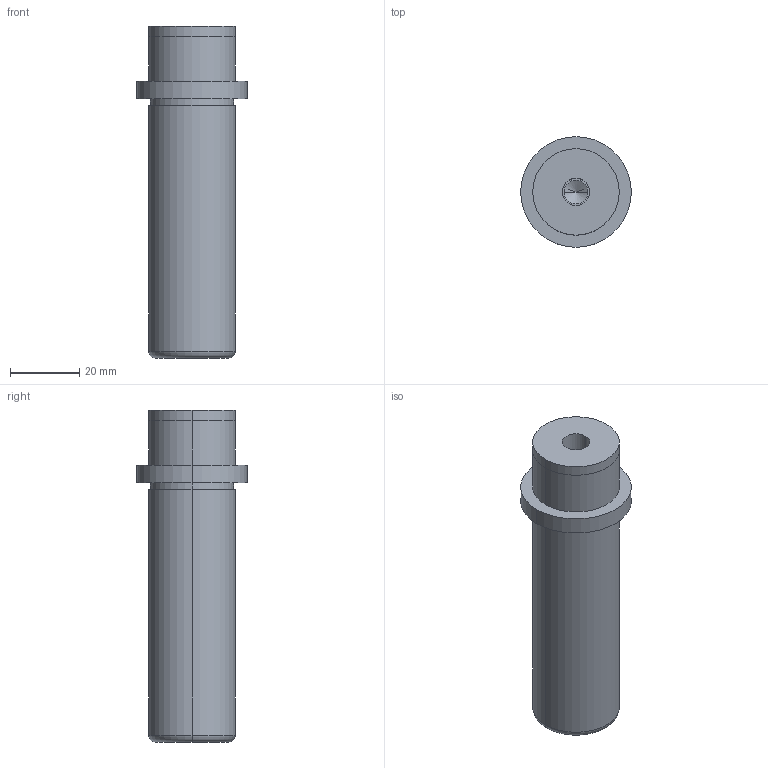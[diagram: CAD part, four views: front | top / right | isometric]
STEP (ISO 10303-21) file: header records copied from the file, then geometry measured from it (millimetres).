
FILE_DESCRIPTION(/* description */ (''),/* implementation_level */ '2;1');
FILE_NAME(/* name */ '3d_sgpr25-80_00294_r00.stp',/* time_stamp */ '2011-01-10T14:11:06+09:00',/* author */ ('MISUMI'),/* organization */ (''),/* preprocessor_version */ 'ST-DEVELOPER v11',/* originating_system */ 'UGS - NX 5.0',/* authorisation */ '');
FILE_SCHEMA (('CONFIG_CONTROL_DESIGN'));
Length unit declared in the file: millimetre
Products named in the file (1): 3d_sgpr25-80_00294_r00
Bounding box: 32 x 32 x 96 mm (x, y, z)
Volume: 47410.8 mm3; surface area: 9832.1 mm2
Topology: 1 solids, 1 shells, 24 faces, 48 edges, 29 vertices
Faces by surface type: cylinder 14, plane 6, cone 2, torus 2
Entity records: 706 total; most frequent: DIRECTION 126, CARTESIAN_POINT 100, ORIENTED_EDGE 92, AXIS2_PLACEMENT_3D 55, EDGE_CURVE 46, CIRCLE 30, EDGE_LOOP 29, VERTEX_POINT 29
